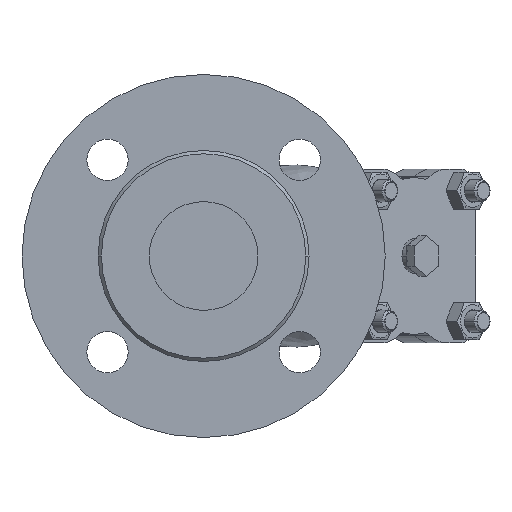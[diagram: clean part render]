
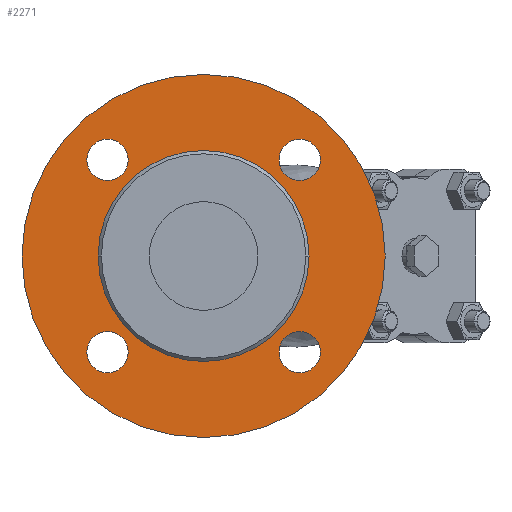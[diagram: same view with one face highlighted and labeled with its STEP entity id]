
A CAD part, left-side view. The second image highlights one B-rep face of the part: STEP entity #2271.
In plain terms, the highlighted planar face has unit normal (-1, 0, 0).
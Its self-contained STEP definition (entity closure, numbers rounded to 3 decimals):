
#790=CARTESIAN_POINT('',(-113.5,0.,0.));
#791=DIRECTION('',(-1.,0.,0.));
#792=DIRECTION('',(0.,1.,0.));
#793=AXIS2_PLACEMENT_3D('',#790,#791,#792);
#795=CARTESIAN_POINT('',(-113.5,0.,0.));
#796=DIRECTION('',(-1.,0.,0.));
#797=DIRECTION('',(0.,-1.,0.));
#798=AXIS2_PLACEMENT_3D('',#795,#796,#797);
#800=CARTESIAN_POINT('',(-113.5,0.,0.));
#801=DIRECTION('',(-1.,0.,0.));
#802=DIRECTION('',(0.,1.,0.));
#803=AXIS2_PLACEMENT_3D('',#800,#801,#802);
#805=CARTESIAN_POINT('',(-113.5,0.,0.));
#806=DIRECTION('',(-1.,0.,0.));
#807=DIRECTION('',(0.,-1.,0.));
#808=AXIS2_PLACEMENT_3D('',#805,#806,#807);
#810=CARTESIAN_POINT('',(-113.5,-44.194,-44.194));
#811=DIRECTION('',(-1.,0.,0.));
#812=DIRECTION('',(0.,1.,0.));
#813=AXIS2_PLACEMENT_3D('',#810,#811,#812);
#815=CARTESIAN_POINT('',(-113.5,-44.194,-44.194));
#816=DIRECTION('',(-1.,0.,0.));
#817=DIRECTION('',(0.,-1.,0.));
#818=AXIS2_PLACEMENT_3D('',#815,#816,#817);
#820=CARTESIAN_POINT('',(-113.5,-44.194,44.194));
#821=DIRECTION('',(-1.,0.,0.));
#822=DIRECTION('',(0.,0.,-1.));
#823=AXIS2_PLACEMENT_3D('',#820,#821,#822);
#825=CARTESIAN_POINT('',(-113.5,-44.194,44.194));
#826=DIRECTION('',(-1.,0.,0.));
#827=DIRECTION('',(0.,0.,1.));
#828=AXIS2_PLACEMENT_3D('',#825,#826,#827);
#830=CARTESIAN_POINT('',(-113.5,44.194,44.194));
#831=DIRECTION('',(-1.,0.,0.));
#832=DIRECTION('',(0.,-1.,0.));
#833=AXIS2_PLACEMENT_3D('',#830,#831,#832);
#835=CARTESIAN_POINT('',(-113.5,44.194,44.194));
#836=DIRECTION('',(-1.,0.,0.));
#837=DIRECTION('',(0.,1.,0.));
#838=AXIS2_PLACEMENT_3D('',#835,#836,#837);
#840=CARTESIAN_POINT('',(-113.5,44.194,-44.194));
#841=DIRECTION('',(-1.,0.,0.));
#842=DIRECTION('',(0.,0.,1.));
#843=AXIS2_PLACEMENT_3D('',#840,#841,#842);
#845=CARTESIAN_POINT('',(-113.5,44.194,-44.194));
#846=DIRECTION('',(-1.,0.,0.));
#847=DIRECTION('',(0.,0.,-1.));
#848=AXIS2_PLACEMENT_3D('',#845,#846,#847);
#986=CARTESIAN_POINT('',(-113.5,83.5,0.));
#987=CARTESIAN_POINT('',(-113.5,-83.5,0.));
#988=VERTEX_POINT('',#986);
#989=VERTEX_POINT('',#987);
#998=CARTESIAN_POINT('',(-113.5,48.5,0.));
#999=CARTESIAN_POINT('',(-113.5,-48.5,0.));
#1000=VERTEX_POINT('',#998);
#1001=VERTEX_POINT('',#999);
#1002=CARTESIAN_POINT('',(-113.5,-34.694,-44.194));
#1003=CARTESIAN_POINT('',(-113.5,-53.694,-44.194));
#1004=VERTEX_POINT('',#1002);
#1005=VERTEX_POINT('',#1003);
#1010=CARTESIAN_POINT('',(-113.5,-44.194,34.694));
#1011=CARTESIAN_POINT('',(-113.5,-44.194,53.694));
#1012=VERTEX_POINT('',#1010);
#1013=VERTEX_POINT('',#1011);
#1018=CARTESIAN_POINT('',(-113.5,34.694,44.194));
#1019=CARTESIAN_POINT('',(-113.5,53.694,44.194));
#1020=VERTEX_POINT('',#1018);
#1021=VERTEX_POINT('',#1019);
#1026=CARTESIAN_POINT('',(-113.5,44.194,-34.694));
#1027=CARTESIAN_POINT('',(-113.5,44.194,-53.694));
#1028=VERTEX_POINT('',#1026);
#1029=VERTEX_POINT('',#1027);
#2231=CARTESIAN_POINT('',(-113.5,0.,0.));
#2232=DIRECTION('',(-1.,0.,0.));
#2233=DIRECTION('',(0.,1.,0.));
#2234=AXIS2_PLACEMENT_3D('',#2231,#2232,#2233);
#2235=PLANE('',#2234);
#2236=ORIENTED_EDGE('',*,*,#2221,.F.);
#2238=ORIENTED_EDGE('',*,*,#2237,.F.);
#2239=EDGE_LOOP('',(#2236,#2238));
#2240=FACE_OUTER_BOUND('',#2239,.F.);
#2242=ORIENTED_EDGE('',*,*,#2241,.T.);
#2244=ORIENTED_EDGE('',*,*,#2243,.T.);
#2245=EDGE_LOOP('',(#2242,#2244));
#2246=FACE_BOUND('',#2245,.F.);
#2248=ORIENTED_EDGE('',*,*,#2247,.T.);
#2250=ORIENTED_EDGE('',*,*,#2249,.T.);
#2251=EDGE_LOOP('',(#2248,#2250));
#2252=FACE_BOUND('',#2251,.F.);
#2254=ORIENTED_EDGE('',*,*,#2253,.T.);
#2256=ORIENTED_EDGE('',*,*,#2255,.T.);
#2257=EDGE_LOOP('',(#2254,#2256));
#2258=FACE_BOUND('',#2257,.F.);
#2260=ORIENTED_EDGE('',*,*,#2259,.T.);
#2262=ORIENTED_EDGE('',*,*,#2261,.T.);
#2263=EDGE_LOOP('',(#2260,#2262));
#2264=FACE_BOUND('',#2263,.F.);
#2266=ORIENTED_EDGE('',*,*,#2265,.T.);
#2268=ORIENTED_EDGE('',*,*,#2267,.T.);
#2269=EDGE_LOOP('',(#2266,#2268));
#2270=FACE_BOUND('',#2269,.F.);
#2271=ADVANCED_FACE('',(#2240,#2246,#2252,#2258,#2264,#2270),#2235,.T.);
#794=CIRCLE('',#793,83.5);
#799=CIRCLE('',#798,83.5);
#804=CIRCLE('',#803,48.5);
#809=CIRCLE('',#808,48.5);
#814=CIRCLE('',#813,9.5);
#819=CIRCLE('',#818,9.5);
#824=CIRCLE('',#823,9.5);
#829=CIRCLE('',#828,9.5);
#834=CIRCLE('',#833,9.5);
#839=CIRCLE('',#838,9.5);
#844=CIRCLE('',#843,9.5);
#849=CIRCLE('',#848,9.5);
#2221=EDGE_CURVE('',#988,#989,#794,.T.);
#2237=EDGE_CURVE('',#989,#988,#799,.T.);
#2241=EDGE_CURVE('',#1000,#1001,#804,.T.);
#2243=EDGE_CURVE('',#1001,#1000,#809,.T.);
#2247=EDGE_CURVE('',#1004,#1005,#814,.T.);
#2249=EDGE_CURVE('',#1005,#1004,#819,.T.);
#2253=EDGE_CURVE('',#1012,#1013,#824,.T.);
#2255=EDGE_CURVE('',#1013,#1012,#829,.T.);
#2259=EDGE_CURVE('',#1020,#1021,#834,.T.);
#2261=EDGE_CURVE('',#1021,#1020,#839,.T.);
#2265=EDGE_CURVE('',#1028,#1029,#844,.T.);
#2267=EDGE_CURVE('',#1029,#1028,#849,.T.);
